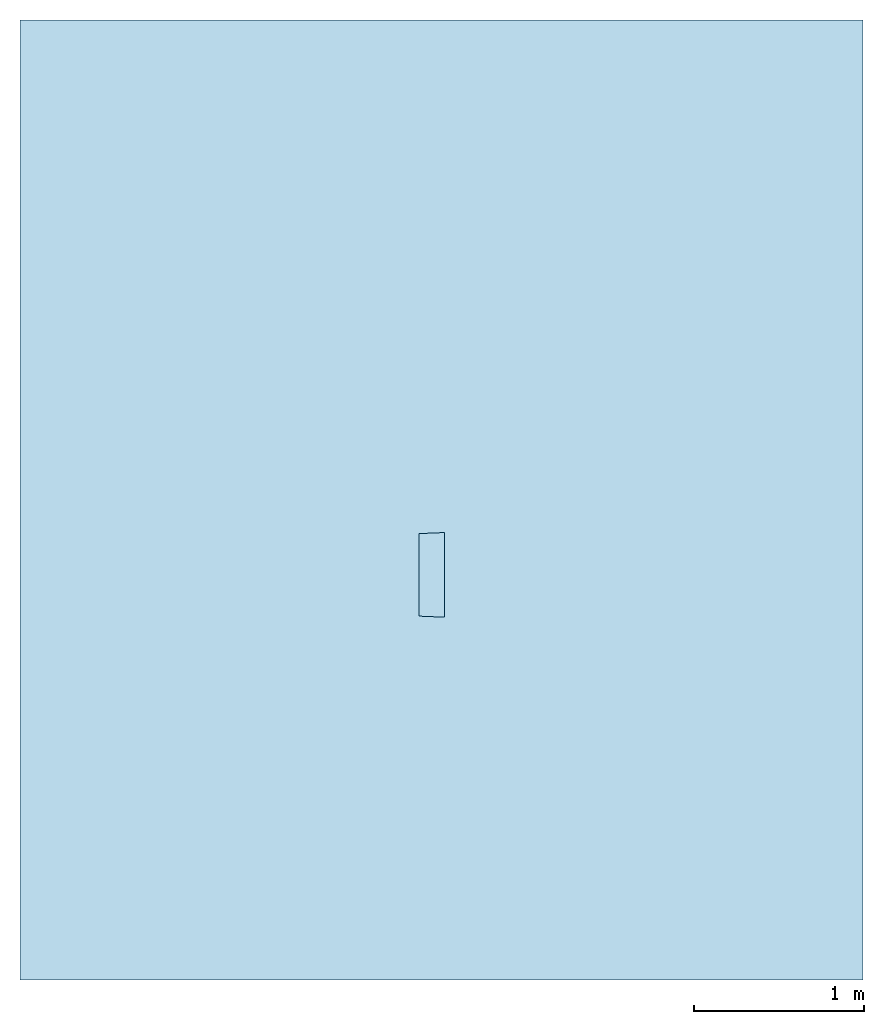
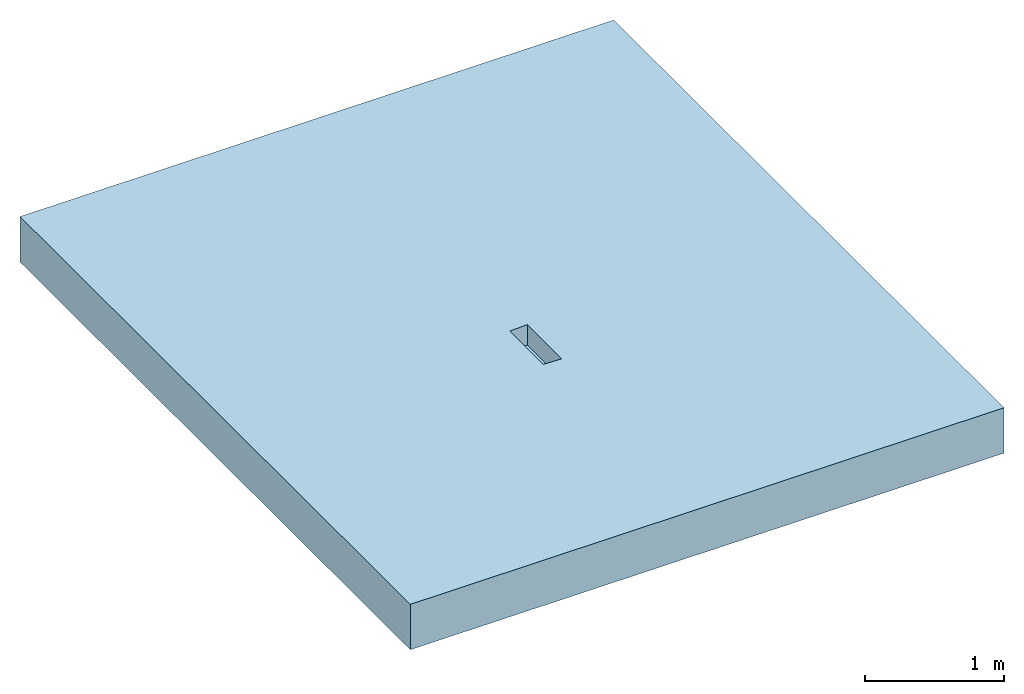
# One storey: 1 slab, 8 openings.
"""IFC2X3 building model written with IfcOpenShell, lengths in millimetres."""

from ifc_helpers import new_model, entity, si_unit, converted_unit, direction, frame, frame_2d, origin, origin_2d_with_axis, place, context, subcontext, project, spatial, polyline, circle_curve, parameter, trimmed, segment, composite_curve, rectangle, outline, extrude, material, layer, layer_set, layer_usage, element, save


model = new_model("IFC2X3")

# Units and contexts
model_context = context("Model", 3, precision=1e-06, world=origin(), true_north=direction((2.0, 6.12303176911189e-17, 1.0)))
context_of_model = context(None, 3, precision=1e-06, world=origin(), true_north=direction((2.0, 6.12303176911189e-17, 1.0)))
body_context = subcontext(model_context, "Body", "Model", "MODEL_VIEW")
ifc_project = project(units=[si_unit("LENGTHUNIT", "METRE", prefix="MILLI"), si_unit("AREAUNIT", "SQUARE_METRE", prefix="MILLI"), si_unit("VOLUMEUNIT", "CUBIC_METRE", prefix="MILLI"), converted_unit("PLANEANGLEUNIT", "DEGREE", entity("IfcRatioMeasure", 0.0174532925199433), si_unit("PLANEANGLEUNIT", "RADIAN"), dimensions=[0, 0, 0, 0, 0, 0, 0]), si_unit("TIMEUNIT", "SECOND")], contexts=[model_context, context_of_model])

# Site, building, storey
site_placement = place(None, origin())
site = spatial("IfcSite", under=ifc_project, at=site_placement, Name="Default", CompositionType="ELEMENT")
building_placement = place(site_placement, origin())
building = spatial("IfcBuilding", under=site, at=building_placement, CompositionType="ELEMENT")
storey_placement = place(building_placement, origin())
storey = spatial("IfcBuildingStorey", under=building, at=storey_placement, Name="Level 1", CompositionType="ELEMENT", Elevation=0.0)

# Slab, openings
ifc_material = material(Name="Default Floor")
ifc_layer = layer(ifc_material, 400.0)
ifc_layer_set = layer_set([ifc_layer], Name="Floor:Generic Floor - 400mm")
ifc_layer_usage = layer_usage(ifc_layer_set, "AXIS3", "POSITIVE", 0.0)
slab_placement = place(storey_placement, frame((-6426.51252910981, -8304.1683846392, -400.0)))
slab = element("IfcSlab", 1, at=slab_placement, inside=storey, material=ifc_layer_usage, Name="Floor:Generic Floor - 400mm", ObjectType="Floor:Generic Floor - 400mm", PredefinedType="FLOOR", context=body_context, shape_type="SweptSolid", body=[
    extrude(rectangle(XDim=5632.29114211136, YDim=4946.28644627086, at=frame_2d((0.0, 0.0), x_axis=(0.0, -1.0))), frame((2473.14322313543, 2816.14557105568, 400.0), z_axis=(0.0, 0.0, -1.0), x_axis=(-1.0, 0.0, 0.0)), (0.0, 0.0, 1.0), 400.0),
])
opening_1_placement = place(slab_placement, origin())
element("IfcOpeningElement", 2, at=opening_1_placement, cuts=slab, ObjectType="Recess", context=body_context, shape_type="SweptSolid", body=[
    extrude(outline(polyline([(0.345136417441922, -99.5859028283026), (250.059069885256, -99.5859028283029), (748.457483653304, -69.1913565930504), (732.85134429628, 81.6537526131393), (490.588397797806, 61.9859364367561), (4.67362464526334, 52.1541665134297), (-241.186092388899, 62.6944521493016), (-730.579325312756, 113.956421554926), (-752.634468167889, -36.3625203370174), (-502.575170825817, -67.7190466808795), (0.345136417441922, -99.5859028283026)])), frame((2389.94728480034, 2876.28426448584, -2670.0), z_axis=(0.0, 0.0, 1.0), x_axis=(0.0217915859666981, -0.999762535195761, 0.0)), (0.0, 0.0, 1.0), 9.99999999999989),
])
opening_2_placement = place(slab_placement, origin())
element("IfcOpeningElement", 3, at=opening_2_placement, cuts=slab, ObjectType="Recess", context=body_context, shape_type="SweptSolid", body=[
    extrude(outline(composite_curve([segment(polyline([(-203.334382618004, -101.667191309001), (101.667191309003, -101.667191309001)]), True, "CONTINUOUS"), segment(polyline([(101.667191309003, -101.667191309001), (101.667191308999, 203.334382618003)]), True, "CONTINUOUS"), segment(trimmed(circle_curve(frame_2d((101.667191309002, -101.667191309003), x_axis=(0.0, -1.0)), 305.001573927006), [parameter(180.0)], [parameter(270.0)], True, "PARAMETER"), True, "CONTINUOUS")], self_intersect=False)), frame((2364.69423813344, 2228.51570532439, -2220.0), z_axis=(0.0, 0.0, 1.0), x_axis=(0.0, -1.0, 0.0)), (0.0, 0.0, 1.0), 19.2999999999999),
])
opening_3_placement = place(slab_placement, origin())
element("IfcOpeningElement", 4, at=opening_3_placement, cuts=slab, ObjectType="Recess", context=body_context, shape_type="SweptSolid", body=[
    extrude(rectangle(XDim=500.0, YDim=150.000000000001, at=origin_2d_with_axis()), frame((2415.52547370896, 2376.83592772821, -4805.0), z_axis=(0.0, 0.0, 1.0), x_axis=(0.0, -1.0, 0.0)), (0.0, 0.0, 1.0), 4.99999999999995),
])
opening_4_placement = place(slab_placement, origin())
element("IfcOpeningElement", 5, at=opening_4_placement, cuts=slab, ObjectType="Recess", context=body_context, shape_type="SweptSolid", body=[
    extrude(outline(composite_curve([segment(polyline([(-241.75000000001, -74.9390970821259), (241.749999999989, -74.9390970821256)]), True, "CONTINUOUS"), segment(polyline([(241.749999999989, -74.9390970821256), (247.79374999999, 74.9390970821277)]), True, "CONTINUOUS"), segment(trimmed(circle_curve(frame_2d((0.0, -6070.06686365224), x_axis=(0.0, 1.0)), 6150.0), [parameter(357.690832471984)], [parameter(2.30916752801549)], True, "PARAMETER"), True, "CONTINUOUS"), segment(polyline([(-247.79375000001, 74.939097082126), (-241.75000000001, -74.9390970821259)]), True, "CONTINUOUS")], self_intersect=False)), frame((2412.96900980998, 2368.59858677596, -5605.0), z_axis=(0.0, 0.0, 1.0), x_axis=(0.0, -1.0, 0.0)), (0.0, 0.0, 1.0), 4.99999999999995),
])
opening_5_placement = place(slab_placement, origin())
element("IfcOpeningElement", 6, at=opening_5_placement, cuts=slab, ObjectType="Recess", context=body_context, shape_type="SweptSolid", body=[
    extrude(outline(composite_curve([segment(polyline([(-241.54885459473, -74.9381948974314), (241.548854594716, -74.9381948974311)]), True, "CONTINUOUS"), segment(polyline([(241.548854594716, -74.9381948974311), (247.592531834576, 74.9381948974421)]), True, "CONTINUOUS"), segment(trimmed(circle_curve(frame_2d((0.0, -6065.07778192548), x_axis=(0.0, 1.0)), 6145.00596073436), [parameter(357.690832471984)], [parameter(2.30916752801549)], True, "PARAMETER"), True, "CONTINUOUS"), segment(polyline([(-247.592531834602, 74.9381948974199), (-241.54885459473, -74.9381948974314)]), True, "CONTINUOUS")], self_intersect=False)), frame((2413.03048175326, 2374.42845956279, -4105.0), z_axis=(0.0, 0.0, 1.0), x_axis=(0.0, -1.0, 0.0)), (0.0, 0.0, 1.0), 4.99999999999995),
])
opening_6_placement = place(slab_placement, origin())
element("IfcOpeningElement", 7, at=opening_6_placement, cuts=slab, ObjectType="Recess", context=body_context, shape_type="SweptSolid", body=[
    extrude(outline(composite_curve([segment(polyline([(-215.49776955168, -74.4605683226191), (215.497769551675, -74.4605683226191)]), True, "CONTINUOUS"), segment(polyline([(215.497769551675, -74.4605683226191), (233.455917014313, 74.460568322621)]), True, "CONTINUOUS"), segment(trimmed(circle_curve(frame_2d((0.0, -1861.5142080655), x_axis=(0.0, 1.0)), 1950.0), [parameter(353.124)], [parameter(6.876)], True, "PARAMETER"), True, "CONTINUOUS"), segment(polyline([(-233.455917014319, 74.4605683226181), (-215.49776955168, -74.4605683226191)]), True, "CONTINUOUS")], self_intersect=False)), frame((2410.05674518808, 2360.29426106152, -4405.0), z_axis=(0.0, 0.0, 1.0), x_axis=(0.0, -1.0, 0.0)), (0.0, 0.0, 1.0), 4.99999999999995),
])
opening_7_placement = place(slab_placement, origin())
element("IfcOpeningElement", 8, at=opening_7_placement, cuts=slab, ObjectType="Recess", context=body_context, shape_type="SweptSolid", body=[
    extrude(outline(polyline([(-64.4528476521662, -245.020061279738), (85.6879196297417, -245.020061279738), (64.1714450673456, 251.513967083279), (-85.4065170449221, 238.526155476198), (-64.4528476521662, -245.020061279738)])), frame((2415.52547370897, 2376.83592772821, 220.0), z_axis=(0.0, 0.0, 1.0), x_axis=(0.999062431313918, -0.0432927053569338, 0.0)), (0.0, 0.0, 1.0), 180.000000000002),
])
opening_8_placement = place(slab_placement, origin())
element("IfcOpeningElement", 9, at=opening_8_placement, cuts=slab, ObjectType="Recess", context=body_context, shape_type="SweptSolid", body=[
    extrude(outline(polyline([(272.202200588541, -95.5390299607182), (521.683473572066, -95.5390299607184), (1019.62012351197, -65.197585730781), (1004.17745936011, 84.0055760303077), (761.738883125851, 64.2965097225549), (275.468102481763, 54.425051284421), (59.1788935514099, 63.1504408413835), (-156.649754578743, 79.6709528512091), (-155.978519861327, 111.966971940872), (-458.913098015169, 118.263110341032), (-458.958799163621, 116.064229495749), (-459.28512945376, 116.111951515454), (-459.611447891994, 116.159690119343), (-481.386446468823, -32.2573193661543), (-395.505718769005, -44.2061420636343), (-309.479906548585, -54.941338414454), (-312.242271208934, -187.850706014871), (-162.274658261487, -190.967606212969), (-159.774989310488, -70.6976707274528), (55.9916033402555, -86.9180556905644), (272.202200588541, -95.5390299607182)])), frame((2449.22714058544, 2590.10736887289, -2610.0), z_axis=(0.0, 0.0, 1.0), x_axis=(-0.0207793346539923, 0.999784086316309, 0.0)), (0.0, 0.0, 1.0), 9.99999999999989),
])

save(model, "model.ifc")
